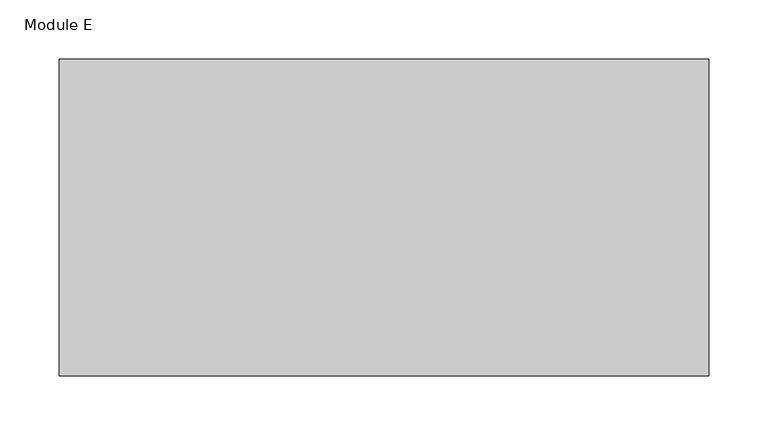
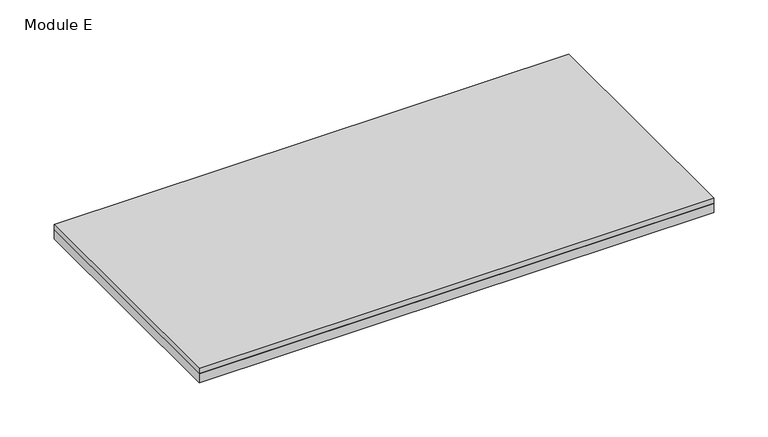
"""IFC4 building model written with IfcOpenShell, lengths in millimetres: proxy geometry, Spinneybeck_Wave : Module E."""

import ifcopenshell
import ifcopenshell.guid

model = None  # the IFC model being written
_history = None  # IfcOwnerHistory: only IFC2X3 demands one
_inside = {}  # id of a spatial element -> (the spatial element, [elements in it])
_under = {}  # id of a project, library or spatial element -> (it, [spatial elements below it])
_declared = {}  # id of a project -> (the project, [libraries it declares])
_typed = {}  # id of a type object -> (the type object, [elements of that type])
_made_of = {}  # id of a material, layer set ... -> (it, [elements and type objects made of it])


def new_model(schema):
    """Start an empty IFC model of exactly this schema.

    Asked for "IFC4X3", IfcOpenShell would pick the latest addendum, in which some entities
    have other attributes; the version numbers below select the first issue.
    IFC2X3 requires an IfcOwnerHistory on every rooted entity: one is made here for all.
    """
    global model, _history
    if schema == "IFC4X3":
        model = ifcopenshell.file(schema_version=(4, 3, 0, 0))
    else:
        model = ifcopenshell.file(schema=schema)
    _inside.clear()
    _under.clear()
    _declared.clear()
    _typed.clear()
    _made_of.clear()
    _history = None
    if model.schema == "IFC2X3":
        org = make("IfcOrganization", Name="unknown")
        user = make(
            "IfcPersonAndOrganization",
            ThePerson=make("IfcPerson", FamilyName="unknown"),
            TheOrganization=org,
        )
        app = make(
            "IfcApplication",
            ApplicationDeveloper=org,
            Version="unknown",
            ApplicationFullName="unknown",
            ApplicationIdentifier="unknown",
        )
        _history = make(
            "IfcOwnerHistory",
            OwningUser=user,
            OwningApplication=app,
            ChangeAction="ADDED",
            CreationDate=0,
        )
    return model


def make(cls, **values):
    """One entity of the class cls with the attributes given. An attribute that is None is left unset."""
    return model.create_entity(
        cls, **{name: value for name, value in values.items() if value is not None}
    )


def rooted(cls, **values):
    """An entity with a GlobalId (a new one), such as an element, a storey or a relation."""
    return make(cls, GlobalId=ifcopenshell.guid.new(), OwnerHistory=_history, **values)


def si_unit(unit_type, name, prefix=None):
    """IfcSIUnit, for example si_unit("LENGTHUNIT", "METRE", prefix="MILLI")."""
    return make("IfcSIUnit", UnitType=unit_type, Prefix=prefix, Name=name)


def assignment(units):
    """IfcUnitAssignment: the units of a project."""
    return None if units is None else make("IfcUnitAssignment", Units=units)


def point(xyz):
    """IfcCartesianPoint."""
    return None if xyz is None else make("IfcCartesianPoint", Coordinates=xyz)


def direction(xyz):
    """IfcDirection."""
    return None if xyz is None else make("IfcDirection", DirectionRatios=xyz)


def frame(location, z_axis=None, x_axis=None):
    """IfcAxis2Placement3D, a coordinate frame: its origin and axes. An axis left out is left unset."""
    return make(
        "IfcAxis2Placement3D",
        Location=point(location),
        Axis=direction(z_axis),
        RefDirection=direction(x_axis),
    )


def origin():
    """The frame at (0, 0, 0) with its axes left unset."""
    return frame((0.0, 0.0, 0.0))


def origin_with_axes():
    """The frame at (0, 0, 0) with the z axis (0, 0, 1) and the x axis (1, 0, 0) written out."""
    return frame((0.0, 0.0, 0.0), z_axis=(0.0, 0.0, 1.0), x_axis=(1.0, 0.0, 0.0))


def place(relative_to, where):
    """IfcLocalPlacement: puts the frame where relative to a parent placement (None: the world)."""
    return make(
        "IfcLocalPlacement", PlacementRelTo=relative_to, RelativePlacement=where
    )


def context(
    kind, dimensions, precision=None, world=None, true_north=None, identifier=None
):
    """IfcGeometricRepresentationContext, for example the 3D "Model" context."""
    return make(
        "IfcGeometricRepresentationContext",
        ContextIdentifier=identifier,
        ContextType=kind,
        CoordinateSpaceDimension=dimensions,
        Precision=precision,
        WorldCoordinateSystem=world,
        TrueNorth=true_north,
    )


def project(units=None, contexts=None):
    """IfcProject with its units and contexts."""
    return rooted(
        "IfcProject",
        Name="project",
        RepresentationContexts=contexts,
        UnitsInContext=assignment(units),
    )


def spatial(cls, under=None, at=None, **own):
    """A site, building, storey or space (cls), placed at a placement, below another one or the project."""
    s = rooted(cls, ObjectPlacement=at, **own)
    if under is not None:
        _under.setdefault(under.id(), (under, []))[1].append(s)
    return s


def polyline(points):
    """IfcPolyline through the points."""
    return make("IfcPolyline", Points=[point(p) for p in points])


def outline(outer, holes=None, kind="AREA"):
    """IfcArbitraryClosedProfileDef: a profile drawn as a closed curve; with holes, ...WithVoids."""
    if holes is None:
        return make("IfcArbitraryClosedProfileDef", ProfileType=kind, OuterCurve=outer)
    return make(
        "IfcArbitraryProfileDefWithVoids",
        ProfileType=kind,
        OuterCurve=outer,
        InnerCurves=holes,
    )


def extrude(swept, where, along, depth):
    """IfcExtrudedAreaSolid: the profile swept, set in the frame where, extruded along a direction by depth."""
    return make(
        "IfcExtrudedAreaSolid",
        SweptArea=swept,
        Position=where,
        ExtrudedDirection=direction(along),
        Depth=depth,
    )


def shape(context_of_items, identifier, shape_type, items):
    """IfcShapeRepresentation: the items that make up one representation, for example the "Body"."""
    return make(
        "IfcShapeRepresentation",
        ContextOfItems=context_of_items,
        RepresentationIdentifier=identifier,
        RepresentationType=shape_type,
        Items=items,
    )


def source(mapping_origin, context_of_items, identifier, shape_type, items):
    """IfcRepresentationMap: a shape defined once, which mapped items show again and again."""
    return make(
        "IfcRepresentationMap",
        MappingOrigin=mapping_origin,
        MappedRepresentation=shape(context_of_items, identifier, shape_type, items),
    )


def transform(
    local_origin,
    x_axis=None,
    y_axis=None,
    z_axis=None,
    scale=None,
    scale2=None,
    scale3=None,
    uniform=True,
):
    """IfcCartesianTransformationOperator3D, or its non-uniform kind. x_axis, y_axis, z_axis: its Axis1, 2, 3."""
    if uniform:
        return make(
            "IfcCartesianTransformationOperator3D",
            Axis1=direction(x_axis),
            Axis2=direction(y_axis),
            LocalOrigin=point(local_origin),
            Scale=scale,
            Axis3=direction(z_axis),
        )
    return make(
        "IfcCartesianTransformationOperator3DnonUniform",
        Axis1=direction(x_axis),
        Axis2=direction(y_axis),
        LocalOrigin=point(local_origin),
        Scale=scale,
        Axis3=direction(z_axis),
        Scale2=scale2,
        Scale3=scale3,
    )


def mapped(mapping_source, mapping_target):
    """IfcMappedItem: shows the shape of a source again, moved by a transform."""
    return make(
        "IfcMappedItem", MappingSource=mapping_source, MappingTarget=mapping_target
    )


def made_of(thing, what):
    """Note that an element or type object is made of a material, layer set ...; save() writes the relation."""
    if what is not None:
        _made_of.setdefault(what.id(), (what, []))[1].append(thing)
    return thing


def element(
    cls,
    number,
    at=None,
    inside=None,
    cuts=None,
    type_object=None,
    material=None,
    context=None,
    identifier="Body",
    shape_type=None,
    held_by="IfcProductDefinitionShape",
    body=None,
    shapes=None,
    **own,
):
    """One element of the class cls, such as IfcWall. Its Tag is "e" and its number.

    at: its placement. inside: the storey or other place that contains it. cuts: it is an
    opening in that element (IfcRelVoidsElement). A single representation is given by context,
    identifier, shape_type and body (its items); several are given by shapes. held_by: the class
    of the entity that holds the representations. save() writes the other relations.
    """
    e = rooted(cls, Tag="e%d" % number, ObjectPlacement=at, **own)
    if body is not None:
        shapes = [shape(context, identifier, shape_type, body)]
    if shapes is not None:
        e.Representation = make(held_by, Representations=shapes)
    if inside is not None:
        _inside.setdefault(inside.id(), (inside, []))[1].append(e)
    if cuts is not None:
        rooted(
            "IfcRelVoidsElement", RelatingBuildingElement=cuts, RelatedOpeningElement=e
        )
    if type_object is not None:
        _typed.setdefault(type_object.id(), (type_object, []))[1].append(e)
    return made_of(e, material)


def aggregate(whole, parts):
    """IfcRelAggregates: a whole, such as a stair, and the parts it consists of."""
    return rooted("IfcRelAggregates", RelatingObject=whole, RelatedObjects=parts)


def save(model, path):
    """Write the relations noted so far, then the file.

    IfcRelAggregates (storeys below a building ...), IfcRelContainedInSpatialStructure (elements
    in a storey), IfcRelDefinesByType, IfcRelAssociatesMaterial and IfcRelDeclares: one each for
    every whole, place, type object, material and project.
    """
    for whole, parts in _under.values():
        aggregate(whole, parts)
    for where, things in _inside.values():
        rooted(
            "IfcRelContainedInSpatialStructure",
            RelatedElements=things,
            RelatingStructure=where,
        )
    for kind, things in _typed.values():
        rooted("IfcRelDefinesByType", RelatedObjects=things, RelatingType=kind)
    for what, things in _made_of.values():
        rooted("IfcRelAssociatesMaterial", RelatedObjects=things, RelatingMaterial=what)
    for by, libraries in _declared.values():
        rooted("IfcRelDeclares", RelatingContext=by, RelatedDefinitions=libraries)
    model.write(path)


def module_e_d9e0331b(model_context):
    return source(origin(), model_context, "Body", "SweptSolid", [
        extrude(outline(polyline([(2.4729323, -134.0996528), (-547.37, -134.0996528), (-547.37, 134.0996528), (2.4729323, 134.0996528), (2.4729323, -134.0996528)])), origin_with_axes(), (0.0, 0.0, 1.0), 10.0210938),
        extrude(outline(polyline([(-547.37, -134.0996528), (-547.37, 134.0996528), (2.4729323, 134.0996528), (2.4729323, -134.0996528), (-547.37, -134.0996528)])), frame((0.0, 0.0, 10.0210938), z_axis=(0.0, 0.0, 1.0), x_axis=(1.0, 0.0, 0.0)), (0.0, 0.0, 1.0), 6.35),
    ])


if __name__ == "__main__":
    model = new_model("IFC4")
    model_context = context("Model", 3, world=origin())
    ifc_project = project(units=[si_unit("LENGTHUNIT", "METRE", prefix="MILLI")], contexts=[model_context])
    site = spatial("IfcSite", under=ifc_project)
    building = spatial("IfcBuilding", under=site)
    placement = place(None, origin())
    module_e_shape = module_e_d9e0331b(model_context)
    element("IfcBuildingElementProxy", 1, Name="Spinneybeck_Wave : Module E", ObjectType="Spinneybeck_Wave : Module E", at=placement, inside=building, context=model_context, shape_type="MappedRepresentation", body=[
        mapped(module_e_shape, transform((0.0, 0.0, 0.0), x_axis=(1.0, 0.0, 0.0), y_axis=(0.0, 1.0, 0.0), z_axis=(0.0, 0.0, 1.0))),
    ])
    save(model, "model.ifc")
